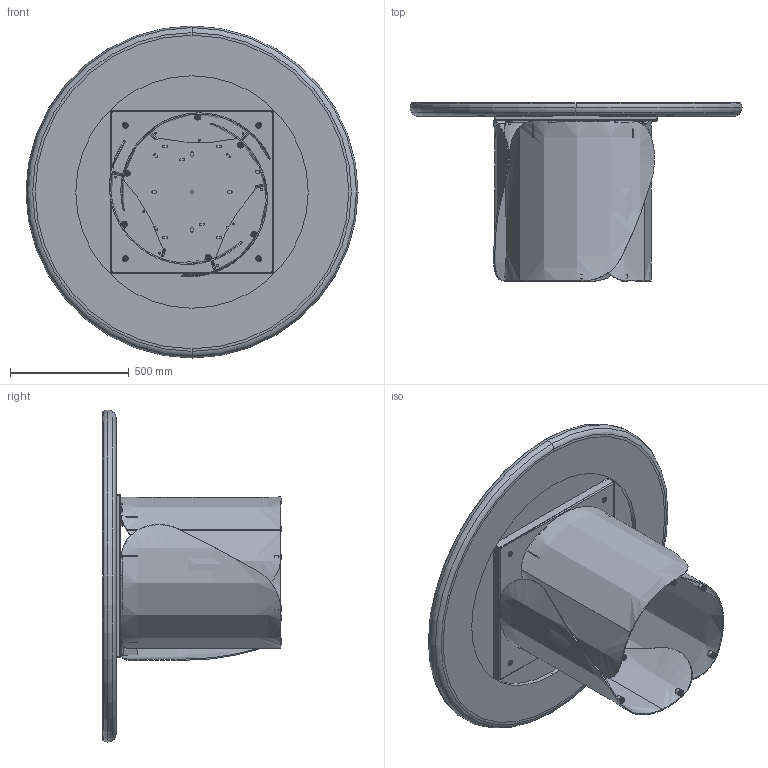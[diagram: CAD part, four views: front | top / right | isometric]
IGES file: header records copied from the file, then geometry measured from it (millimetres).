
Start section: SolidWorks IGES file using analytic representation for surfaces
Global section: file name: Y:\eforma\TECNICO\SOLIDWORKS\E-FORMA\1-TAVOLI\ONDA\08 modelli 3D web\ON06K_Onda_d.140_King.IGS; native system: SolidWorks 2022; preprocessor: SolidWorks 2022; author: eforma.tech; date: 240801.135325; units: millimetre
Bounding box: 1400 x 752 x 1400 mm (x, y, z)
Volume: 79824348.6 mm3; surface area: 10928269.3 mm2
Topology: 63 solids, 63 shells, 1719 faces, 4045 edges, 2482 vertices
Faces by surface type: revolution 981, plane 678, bspline 60
